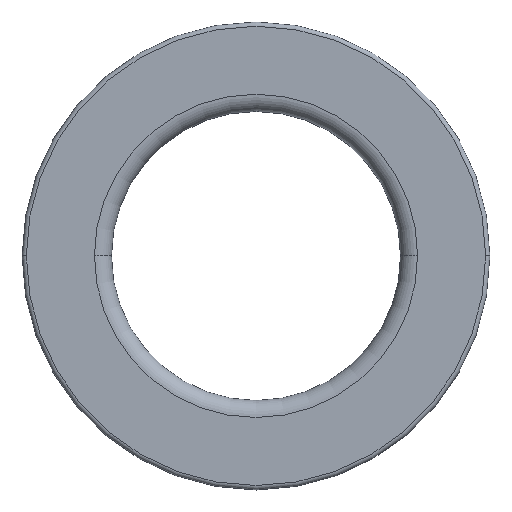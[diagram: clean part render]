
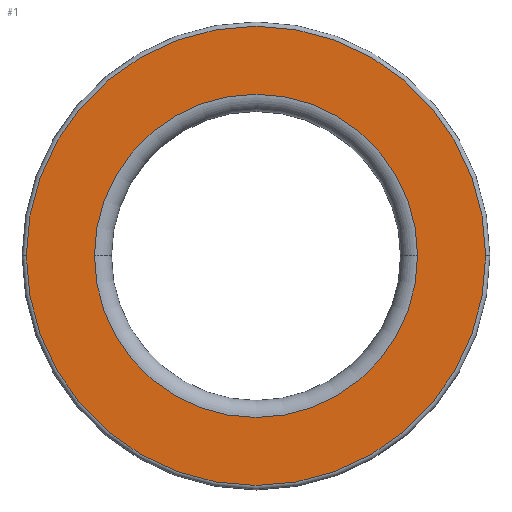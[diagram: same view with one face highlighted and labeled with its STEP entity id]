
A CAD part, top view. The second image highlights one B-rep face of the part: STEP entity #1.
In plain terms, the highlighted planar face has unit normal (0, 0, 1).
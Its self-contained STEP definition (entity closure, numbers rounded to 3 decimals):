
#1 = ADVANCED_FACE ( 'NONE', ( #165, #178 ), #375, .T. ) ;
#15 = DIRECTION ( 'NONE',  ( -1., 0., 0. ) ) ;
#26 = DIRECTION ( 'NONE',  ( -1., 0., 0. ) ) ;
#27 = VERTEX_POINT ( 'NONE', #327 ) ;
#40 = AXIS2_PLACEMENT_3D ( 'NONE', #225, #174, #381 ) ;
#44 = EDGE_CURVE ( 'NONE', #27, #594, #177, .T. ) ;
#49 = CARTESIAN_POINT ( 'NONE',  ( -19., 0., 8.25 ) ) ;
#69 = CARTESIAN_POINT ( 'NONE',  ( 27., 0., 8.25 ) ) ;
#73 = AXIS2_PLACEMENT_3D ( 'NONE', #76, #279, #26 ) ;
#76 = CARTESIAN_POINT ( 'NONE',  ( 0., 0., 8.25 ) ) ;
#111 = CARTESIAN_POINT ( 'NONE',  ( 0., 0., 8.25 ) ) ;
#161 = DIRECTION ( 'NONE',  ( 0., 0., -1. ) ) ;
#165 = FACE_BOUND ( 'NONE', #625, .T. ) ;
#174 = DIRECTION ( 'NONE',  ( 0., 0., -1. ) ) ;
#177 = CIRCLE ( 'NONE', #40, 27. ) ;
#178 = FACE_OUTER_BOUND ( 'NONE', #523, .T. ) ;
#208 = ORIENTED_EDGE ( 'NONE', *, *, #44, .F. ) ;
#214 = CARTESIAN_POINT ( 'NONE',  ( 0., 0., 8.25 ) ) ;
#225 = CARTESIAN_POINT ( 'NONE',  ( 0., 0., 8.25 ) ) ;
#262 = CIRCLE ( 'NONE', #604, 27. ) ;
#265 = VERTEX_POINT ( 'NONE', #49 ) ;
#279 = DIRECTION ( 'NONE',  ( 0., 0., -1. ) ) ;
#325 = DIRECTION ( 'NONE',  ( 1., 0., 0. ) ) ;
#327 = CARTESIAN_POINT ( 'NONE',  ( 27., 0., 8.25 ) ) ;
#337 = EDGE_CURVE ( 'NONE', #265, #509, #645, .T. ) ;
#345 = CARTESIAN_POINT ( 'NONE',  ( -27., 0., 8.25 ) ) ;
#362 = AXIS2_PLACEMENT_3D ( 'NONE', #69, #469, #325 ) ;
#364 = CIRCLE ( 'NONE', #73, 19. ) ;
#374 = DIRECTION ( 'NONE',  ( 0., 0., -1. ) ) ;
#375 = PLANE ( 'NONE',  #362 ) ;
#381 = DIRECTION ( 'NONE',  ( -1., 0., 0. ) ) ;
#418 = EDGE_CURVE ( 'NONE', #594, #27, #262, .T. ) ;
#440 = CARTESIAN_POINT ( 'NONE',  ( 19., 0., 8.25 ) ) ;
#469 = DIRECTION ( 'NONE',  ( 0., 0., 1. ) ) ;
#476 = ORIENTED_EDGE ( 'NONE', *, *, #546, .T. ) ;
#503 = AXIS2_PLACEMENT_3D ( 'NONE', #111, #161, #15 ) ;
#509 = VERTEX_POINT ( 'NONE', #440 ) ;
#523 = EDGE_LOOP ( 'NONE', ( #552, #208 ) ) ;
#546 = EDGE_CURVE ( 'NONE', #509, #265, #364, .T. ) ;
#552 = ORIENTED_EDGE ( 'NONE', *, *, #418, .F. ) ;
#594 = VERTEX_POINT ( 'NONE', #345 ) ;
#604 = AXIS2_PLACEMENT_3D ( 'NONE', #214, #374, #628 ) ;
#614 = ORIENTED_EDGE ( 'NONE', *, *, #337, .T. ) ;
#625 = EDGE_LOOP ( 'NONE', ( #614, #476 ) ) ;
#628 = DIRECTION ( 'NONE',  ( -1., 0., 0. ) ) ;
#645 = CIRCLE ( 'NONE', #503, 19. ) ;
